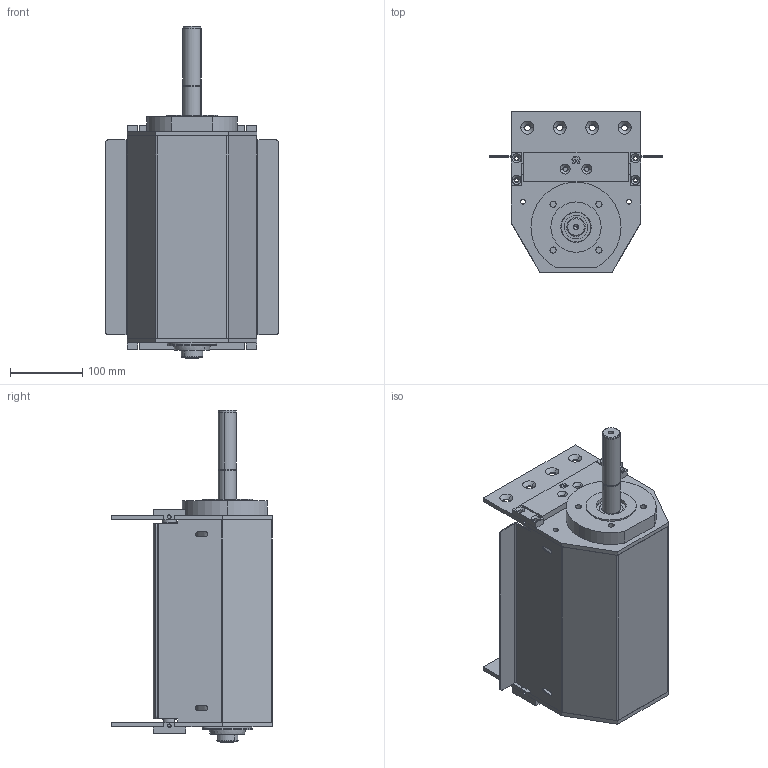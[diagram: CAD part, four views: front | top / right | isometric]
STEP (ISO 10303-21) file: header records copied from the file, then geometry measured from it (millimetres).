
FILE_DESCRIPTION (( 'STEP AP203' ), '1' );
FILE_NAME ('084.050.KCS.49.250.STEP', '2019-07-29T13:52:14', ( '' ), ( '' ), 'SwSTEP 2.0', 'SolidWorks 2018', '' );
FILE_SCHEMA (( 'CONFIG_CONTROL_DESIGN' ));
Length unit declared in the file: millimetre
Products named in the file (15): 084.050.KCS.49.250; 084.802.020; 084.814.003-1; 084.812.003; 084.817.068; 084.817.067; 084.810.003; 084.802.012_Solo centrale; 084.817.070_Default<A macchina>; 084.802.004-1; 084.802.021; CUSCINETTI A SFERE_6004-2RS; 084.802.003; 084.802.011; 084.817.069
Assembly tree (25 placements, depth 2):
  084.050.KCS.49.250
    084.817.068  x2
    084.817.070_Default<A macchina>
    084.817.067
    084.817.069  x2
    084.802.011
    084.802.021
    084.814.003-1
    084.810.003  x2
    084.802.004-1  x4
    084.802.020
    084.812.003
    084.802.003  x2
    CUSCINETTI A SFERE_6004-2RS  x4
    084.802.012_Solo centrale  x2
Bounding box: 240 x 223 x 460.5 mm (x, y, z)
Volume: 2320981.1 mm3; surface area: 1070417.3 mm2
Topology: 27 solids, 27 shells, 988 faces, 2451 edges, 1571 vertices
Faces by surface type: plane 419, cylinder 347, cone 144, torus 68, sphere 10
Entity records: 20771 total; most frequent: DIRECTION 3496, CARTESIAN_POINT 3301, ORIENTED_EDGE 3062, EDGE_CURVE 1531, AXIS2_PLACEMENT_3D 1329, VERTEX_POINT 986, LINE 838, VECTOR 838
